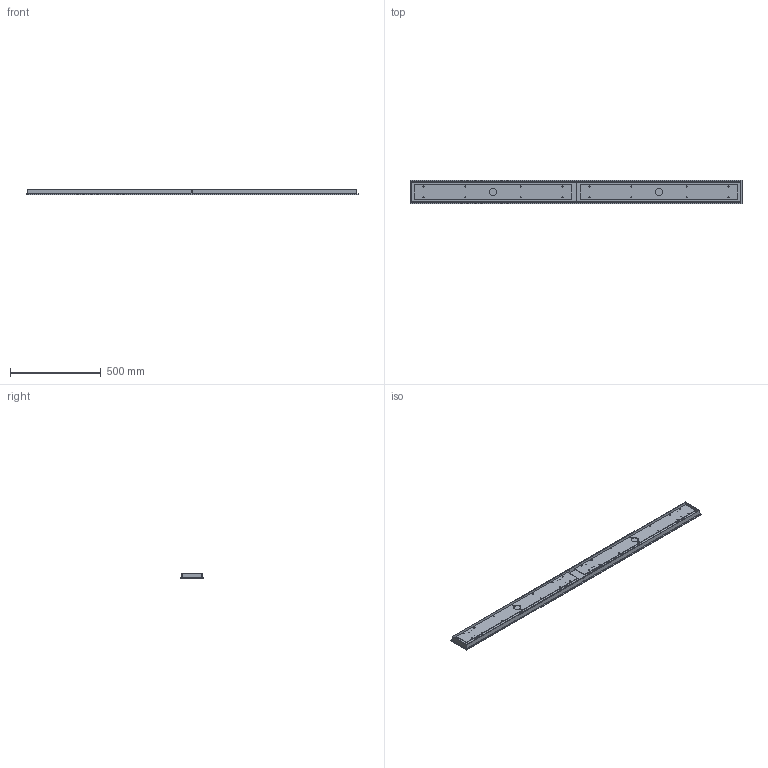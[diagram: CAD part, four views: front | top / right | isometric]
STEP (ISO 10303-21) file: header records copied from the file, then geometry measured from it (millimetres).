
FILE_DESCRIPTION(/* description */ (''),/* implementation_level */ '2;1');
FILE_NAME(/* name */ 'SkLO_Linear_Canopy_6''_MCL06_3D',/* time_stamp */ '2024-10-18T17:21:07+02:00',/* author */ (''),/* organization */ (''),/* preprocessor_version */ 'ST-DEVELOPER v16.5',/* originating_system */ 'Rhino 7.34',/* authorisation */ '');
FILE_SCHEMA (('CONFIG_CONTROL_DESIGN'));
Length unit declared in the file: millimetre
Products named in the file (1): Document
Bounding box: 1830 x 127 x 28.3 mm (x, y, z)
Volume: 1398493.2 mm3; surface area: 972037.2 mm2
Topology: 4 solids, 16 shells, 336 faces, 860 edges, 563 vertices
Faces by surface type: cylinder 134, plane 126, bspline 76
Full cylindrical faces by diameter (mm): 3 x32, 5.249 x12, 6 x24, 6.2 x28, 10 x12, 40 x2
Entity records: 15356 total; most frequent: CARTESIAN_POINT 9883, ORIENTED_EDGE 1624, EDGE_CURVE 818, VERTEX_POINT 524, EDGE_LOOP 454, B_SPLINE_CURVE_WITH_KNOTS 350, ADVANCED_FACE 336, FACE_OUTER_BOUND 336
